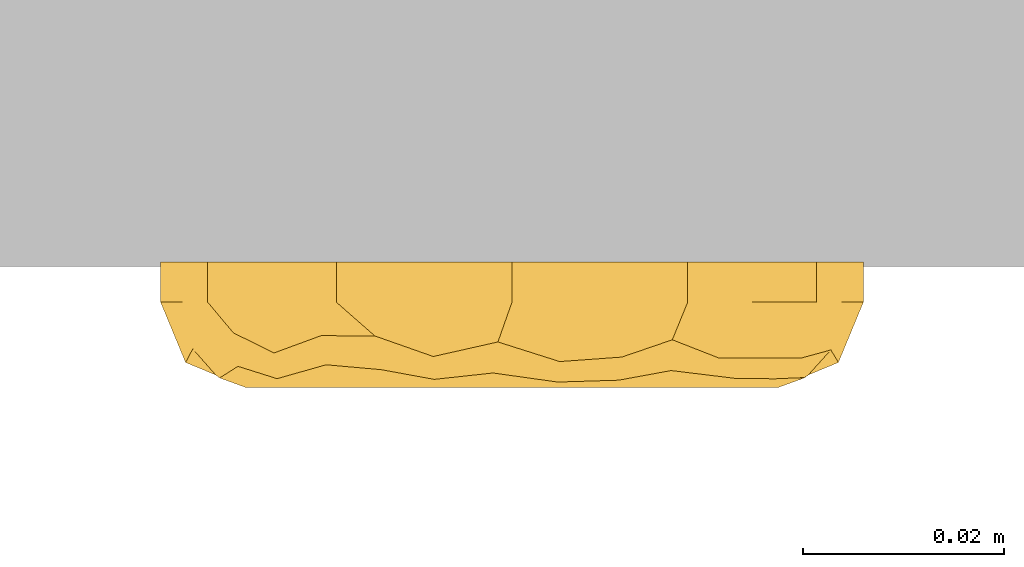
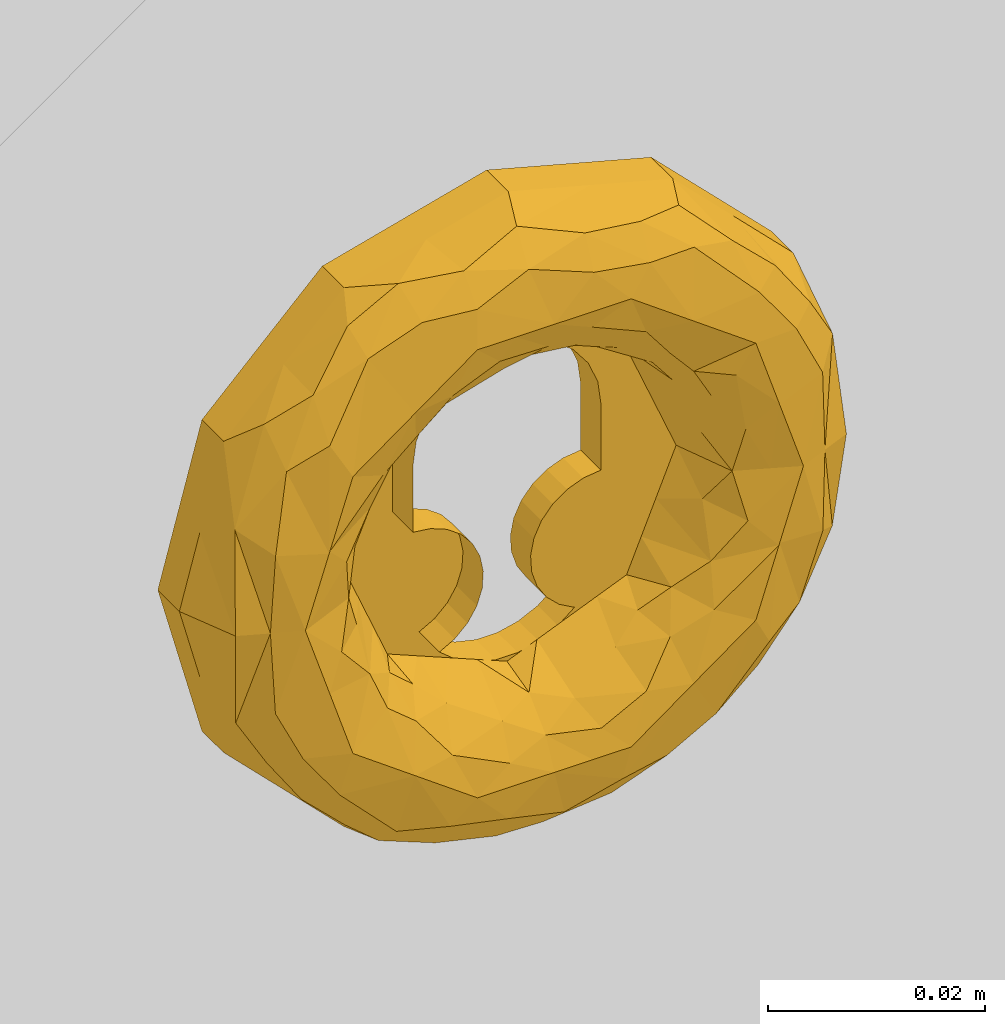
# One storey, part 2 of 2: 1 door.
"""IFC2X3 building model written with IfcOpenShell, lengths in feet."""

from ifc_helpers import new_model, entity, si_unit, converted_unit, derived_unit, direction, frame, origin, place, context, subcontext, project, spatial, face_set, surface_model, source, transform, mapped, type_object, type_shapes, element, save


model = new_model("IFC2X3")

# Units and contexts
model_context = context("Model", 3, precision=0.0001, world=origin(), true_north=direction((6.12303176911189e-17, 1.0)))
body_context = subcontext(model_context, "Body", "Model", "MODEL_VIEW")
ifc_project = project(units=[converted_unit("LENGTHUNIT", "FOOT", entity("IfcRatioMeasure", 0.3048), si_unit("LENGTHUNIT", "METRE"), dimensions=[1, 0, 0, 0, 0, 0, 0]), converted_unit("AREAUNIT", "SQUARE FOOT", entity("IfcRatioMeasure", 0.09290304), si_unit("AREAUNIT", "SQUARE_METRE"), dimensions=[2, 0, 0, 0, 0, 0, 0]), converted_unit("VOLUMEUNIT", "CUBIC FOOT", entity("IfcRatioMeasure", 0.028316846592), si_unit("VOLUMEUNIT", "CUBIC_METRE"), dimensions=[3, 0, 0, 0, 0, 0, 0]), converted_unit("PLANEANGLEUNIT", "DEGREE", entity("IfcRatioMeasure", 0.0174532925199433), si_unit("PLANEANGLEUNIT", "RADIAN"), dimensions=[0, 0, 0, 0, 0, 0, 0]), si_unit("MASSUNIT", "GRAM", prefix="KILO"), derived_unit("MASSDENSITYUNIT", [(si_unit("MASSUNIT", "GRAM", prefix="KILO"), 1), (si_unit("LENGTHUNIT", "METRE"), -3)]), si_unit("TIMEUNIT", "SECOND"), si_unit("FREQUENCYUNIT", "HERTZ"), si_unit("THERMODYNAMICTEMPERATUREUNIT", "DEGREE_CELSIUS"), derived_unit("THERMALTRANSMITTANCEUNIT", [(si_unit("MASSUNIT", "GRAM", prefix="KILO"), 1), (si_unit("THERMODYNAMICTEMPERATUREUNIT", "KELVIN"), -1), (si_unit("TIMEUNIT", "SECOND"), -3)]), derived_unit("VOLUMETRICFLOWRATEUNIT", [(si_unit("LENGTHUNIT", "METRE"), 3), (si_unit("TIMEUNIT", "SECOND"), -1)]), si_unit("ELECTRICCURRENTUNIT", "AMPERE"), si_unit("ELECTRICVOLTAGEUNIT", "VOLT"), si_unit("POWERUNIT", "WATT"), si_unit("FORCEUNIT", "NEWTON"), si_unit("ILLUMINANCEUNIT", "LUX"), si_unit("LUMINOUSFLUXUNIT", "LUMEN"), si_unit("LUMINOUSINTENSITYUNIT", "CANDELA"), derived_unit("USERDEFINED", [(si_unit("MASSUNIT", "GRAM", prefix="KILO"), -1), (si_unit("LENGTHUNIT", "METRE"), -2), (si_unit("TIMEUNIT", "SECOND"), 3), (si_unit("LUMINOUSFLUXUNIT", "LUMEN"), 1)]), derived_unit("LINEARVELOCITYUNIT", [(si_unit("LENGTHUNIT", "METRE"), 1), (si_unit("TIMEUNIT", "SECOND"), -1)]), si_unit("PRESSUREUNIT", "PASCAL"), derived_unit("USERDEFINED", [(si_unit("LENGTHUNIT", "METRE"), -2), (si_unit("MASSUNIT", "GRAM", prefix="KILO"), 1), (si_unit("TIMEUNIT", "SECOND"), -2)])], contexts=[model_context])

# Site, building, storey
site_placement = place(None, origin())
site = spatial("IfcSite", under=ifc_project, at=site_placement, Name="Default", CompositionType="ELEMENT")
building_placement = place(site_placement, origin())
building = spatial("IfcBuilding", under=site, at=building_placement, CompositionType="ELEMENT")
storey_placement = place(building_placement, origin())
storey = spatial("IfcBuildingStorey", under=building, at=storey_placement, Name="Level 1", CompositionType="ELEMENT", Elevation=0.0)

# Door
door_style = type_object("IfcDoorStyle", Name="dline_Hardware_TomDixonCollection_Escutcheons_Roccoco_Half_SnapOn_3.25", ConstructionType="NOTDEFINED", OperationType="NOTDEFINED", ParameterTakesPrecedence=False, Sizeable=False)
shared_shape = source(origin(), body_context, "Body", "SurfaceModel", [
    surface_model("IfcFaceBasedSurfaceModel", [(-0.114829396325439, 0.0, -0.00161922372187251), (-0.0994451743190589, 0.0574146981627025, -0.00161922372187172), (-0.0574146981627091, 0.0994451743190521, -0.00161922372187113), (0.0, 0.114829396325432, -0.00161922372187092), (0.0574146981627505, 0.099445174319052, -0.00161922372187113), (0.0994451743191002, 0.0574146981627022, -0.00161922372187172), (0.11482939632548, 0.0, -0.00161922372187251), (0.0328083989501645, 0.0, -0.00161922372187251), (0.0267051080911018, 0.000768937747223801, -0.0016192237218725), (0.0209832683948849, 0.00302769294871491, -0.00161922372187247), (0.0160004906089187, 0.00663509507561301, -0.00161922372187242), (0.012068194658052, 0.011365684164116, -0.00161922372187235), (0.00943214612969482, 0.0169238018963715, -0.00161922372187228), (0.00825709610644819, 0.0229620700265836, -0.00161922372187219), (0.00861648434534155, 0.0291031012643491, -0.00161922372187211), (0.0104878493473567, 0.0349630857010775, -0.00161922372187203), (0.0137542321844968, 0.0401757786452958, -0.00161922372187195), (0.0182114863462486, 0.0444153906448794, -0.0016192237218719), (0.02358103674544, 0.0474169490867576, -0.00161922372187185), (0.017783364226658, 0.0521769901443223, -0.00161922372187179), (0.0110560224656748, 0.0554957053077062, -0.00161922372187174), (0.00375069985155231, 0.0571996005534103, -0.00161922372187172), (-0.00375069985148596, 0.0571996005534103, -0.00161922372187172), (-0.0110560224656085, 0.0554957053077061, -0.00161922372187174), (-0.0177833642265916, 0.0521769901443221, -0.00161922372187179), (-0.0235810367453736, 0.0474169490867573, -0.00161922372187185), (-0.0182114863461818, 0.0444153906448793, -0.0016192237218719), (-0.01375423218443, 0.0401757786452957, -0.00161922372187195), (-0.0104878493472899, 0.0349630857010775, -0.00161922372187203), (-0.00861648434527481, 0.029103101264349, -0.00161922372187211), (-0.00825709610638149, 0.0229620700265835, -0.00161922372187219), (-0.00943214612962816, 0.0169238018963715, -0.00161922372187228), (-0.0120681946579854, 0.011365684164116, -0.00161922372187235), (-0.0160004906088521, 0.00663509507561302, -0.00161922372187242), (-0.0209832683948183, 0.00302769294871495, -0.00161922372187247), (-0.0267051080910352, 0.000768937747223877, -0.0016192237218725), (-0.0328083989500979, 0.0, -0.00161922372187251), (0.0994451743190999, -0.0574146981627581, -0.0016192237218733), (0.0574146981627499, -0.0994451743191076, -0.00161922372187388), (0.0, -0.114829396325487, -0.0016192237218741), (-0.0574146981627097, -0.099445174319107, -0.00161922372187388), (-0.0994451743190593, -0.0574146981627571, -0.0016192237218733), (-0.0328083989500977, -0.0246062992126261, -0.00161922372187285), (-0.0316904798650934, -0.0330977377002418, -0.00161922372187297), (-0.0284129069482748, -0.0410104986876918, -0.00161922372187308), (-0.0231990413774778, -0.0478053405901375, -0.00161922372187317), (-0.0164041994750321, -0.0530192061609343, -0.00161922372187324), (-0.00849143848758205, -0.0562967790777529, -0.00161922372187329), (0.0, -0.0574146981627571, -0.0016192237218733), (0.00849143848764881, -0.0562967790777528, -0.00161922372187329), (0.0164041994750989, -0.0530192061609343, -0.00161922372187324), (0.0231990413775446, -0.0478053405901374, -0.00161922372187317), (0.0284129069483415, -0.0410104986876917, -0.00161922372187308), (0.0316904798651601, -0.0330977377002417, -0.00161922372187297), (0.0328083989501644, -0.0246062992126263, -0.00161922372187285), (0.103991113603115, 0.0404490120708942, 0.0114829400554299), (0.107137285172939, 0.0287073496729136, -0.0016192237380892), (0.109410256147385, 0.0202245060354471, 0.0114829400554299), (-0.107137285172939, 0.0287073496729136, 0.0114829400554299), (-0.0994451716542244, 0.0574146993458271, 0.0114829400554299), (-0.107137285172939, 0.0287073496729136, -0.0016192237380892), (0.0784299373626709, 0.0784299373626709, 0.0114829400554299), (0.0994451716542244, 0.0574146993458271, 0.0114829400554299), (0.0784299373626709, 0.0784299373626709, -0.0016192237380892), (0.114829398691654, 0.0, 0.0114829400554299), (0.0574146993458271, 0.0994451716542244, 0.0114829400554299), (0.0287073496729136, 0.107137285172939, -0.0016192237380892), (0.0, 0.114829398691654, 0.0114829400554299), (0.0287073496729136, 0.107137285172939, 0.0114829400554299), (-0.0287073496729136, 0.107137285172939, 0.0114829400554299), (-0.0287073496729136, 0.107137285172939, -0.0016192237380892), (-0.0784299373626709, 0.0784299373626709, -0.0016192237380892), (-0.0784299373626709, 0.0784299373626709, 0.0114829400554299), (-0.0574146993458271, 0.0994451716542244, 0.0114829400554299), (-0.114829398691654, 0.0, 0.0114829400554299), (-0.103991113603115, -0.0404490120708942, 0.0114829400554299), (-0.107137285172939, -0.0287073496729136, -0.0016192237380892), (-0.109410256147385, -0.0202245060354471, 0.0114829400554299), (0.107137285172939, -0.0287073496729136, 0.0114829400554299), (0.0994451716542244, -0.0574146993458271, 0.0114829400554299), (0.107137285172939, -0.0287073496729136, -0.0016192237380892), (-0.0784299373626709, -0.0784299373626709, 0.0114829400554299), (-0.0994451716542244, -0.0574146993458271, 0.0114829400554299), (-0.0784299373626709, -0.0784299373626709, -0.0016192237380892), (-0.0574146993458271, -0.0994451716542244, 0.0114829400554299), (-0.0287073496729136, -0.107137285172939, -0.0016192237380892), (0.0, -0.114829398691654, 0.0114829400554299), (-0.0287073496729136, -0.107137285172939, 0.0114829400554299), (0.0287073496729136, -0.107137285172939, 0.0114829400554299), (0.0287073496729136, -0.107137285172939, -0.0016192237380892), (0.0784299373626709, -0.0784299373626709, -0.0016192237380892), (0.0784299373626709, -0.0784299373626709, 0.0114829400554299), (0.0574146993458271, -0.0994451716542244, 0.0114829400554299), (0.104185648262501, 0.0354321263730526, 0.0271007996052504), (0.10769384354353, 0.0266302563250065, 0.0114829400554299), (-0.00460470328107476, 0.111512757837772, 0.0244946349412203), (-0.0257417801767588, 0.105345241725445, 0.029240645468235), (-0.00619756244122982, 0.102307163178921, 0.0346305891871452), (0.0358880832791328, 0.102162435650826, 0.0294351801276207), (0.0155927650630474, 0.105819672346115, 0.0308965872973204), (0.095525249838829, 0.0295866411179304, 0.0361229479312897), (0.0948657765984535, 0.0518237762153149, 0.0296521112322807), (0.086100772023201, 0.0492820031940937, 0.0365281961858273), (-0.0607702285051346, 0.086708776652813, 0.0319500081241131), (-0.0427446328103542, 0.0948088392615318, 0.0335454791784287), (-0.0447977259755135, 0.103246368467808, 0.0225341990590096), (0.106661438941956, 0.0, 0.0312021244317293), (0.0676873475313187, 0.0841498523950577, 0.0297723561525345), (0.0520024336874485, 0.0896197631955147, 0.0338375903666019), (0.0733057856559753, 0.0671199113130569, 0.0364366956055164), (0.0703377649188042, 0.051103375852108, 0.0393700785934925), (0.0523817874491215, 0.0989614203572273, 0.0237841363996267), (0.0348720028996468, 0.0918425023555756, 0.036979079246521), (-0.0623906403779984, 0.093721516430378, 0.0224341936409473), (0.0968018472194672, 0.0, 0.0352861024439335), (0.0486022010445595, 0.0668951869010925, 0.0393700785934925), (-0.104311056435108, 0.0357333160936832, 0.026776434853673), (-0.0895434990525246, 0.0554412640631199, 0.0324601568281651), (-0.0910296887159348, 0.0668764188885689, 0.021533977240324), (-0.0253979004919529, 0.0954931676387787, 0.0367174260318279), (-0.0486022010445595, 0.0668951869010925, 0.0393700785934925), (-0.0777445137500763, 0.0769081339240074, 0.0280735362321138), (-0.0767557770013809, 0.0629682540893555, 0.0364925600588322), (-0.0955414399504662, 0.0286489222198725, 0.0362579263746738), (-0.0968018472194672, 0.0, 0.0352861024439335), (-0.10769384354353, 0.0266302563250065, 0.0114829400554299), (-0.106661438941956, 0.0, 0.0312021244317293), (0.0149465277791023, 0.0955802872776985, 0.0375915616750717), (-0.0786400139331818, 0.025551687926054, 0.0393700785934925), (-0.0869422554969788, 0.0, 0.0393700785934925), (0.0869422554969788, 0.0, 0.0393700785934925), (0.0786400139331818, 0.025551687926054, 0.0393700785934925), (0.0827525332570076, 0.069546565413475, 0.0296548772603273), (0.0268666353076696, 0.0826869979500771, 0.0393700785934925), (0.0, 0.0826869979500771, 0.0393700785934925), (-0.0703377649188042, 0.051103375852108, 0.0393700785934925), (-0.0268666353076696, 0.0826869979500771, 0.0393700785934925), (-0.104185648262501, -0.0354321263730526, 0.0271007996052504), (-0.10769384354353, -0.0266302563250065, 0.0114829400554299), (0.0895434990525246, -0.0554412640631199, 0.0324601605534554), (0.0786400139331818, -0.025551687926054, 0.0393700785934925), (0.0767557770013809, -0.0629682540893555, 0.0364925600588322), (0.10769384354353, -0.0266302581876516, 0.0114829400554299), (0.104311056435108, -0.0357333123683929, 0.026776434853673), (-0.095525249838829, -0.0295866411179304, 0.0361229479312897), (-0.0948657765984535, -0.0518237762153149, 0.0296521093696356), (-0.086100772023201, -0.0492820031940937, 0.0365281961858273), (-0.0486022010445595, -0.0668951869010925, 0.0393700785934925), (-0.0703377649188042, -0.051103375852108, 0.0393700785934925), (-0.0733057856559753, -0.0671199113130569, 0.0364366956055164), (-0.0358880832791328, -0.102162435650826, 0.0294351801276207), (-0.0155927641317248, -0.105819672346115, 0.0308965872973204), (-0.0676873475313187, -0.0841498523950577, 0.0297723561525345), (-0.0520024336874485, -0.0896197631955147, 0.0338375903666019), (-0.0348720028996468, -0.0918425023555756, 0.036979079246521), (0.00460470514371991, -0.111512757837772, 0.0244946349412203), (0.0910296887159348, -0.0668764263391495, 0.021533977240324), (0.0607702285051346, -0.0867087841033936, 0.0319500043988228), (0.0447977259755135, -0.103246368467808, 0.0225341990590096), (0.0623906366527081, -0.093721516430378, 0.0224341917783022), (0.0427446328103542, -0.0948088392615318, 0.0335454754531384), (0.025397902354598, -0.0954931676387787, 0.0367174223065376), (0.0257417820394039, -0.105345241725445, 0.0292406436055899), (0.0777445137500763, -0.0769081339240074, 0.0280735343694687), (0.0955414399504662, -0.0286489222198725, 0.0362579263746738), (0.00619756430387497, -0.102307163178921, 0.0346305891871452), (-0.0149465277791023, -0.0955802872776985, 0.0375915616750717), (0.0486022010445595, -0.0668951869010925, 0.0393700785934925), (-0.0523817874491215, -0.0989614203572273, 0.0237841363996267), (-0.0786400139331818, -0.025551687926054, 0.0393700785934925), (-0.0827525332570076, -0.069546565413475, 0.0296548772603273), (-0.0268666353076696, -0.0826869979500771, 0.0393700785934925), (0.0, -0.0826869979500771, 0.0393700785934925), (0.0703377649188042, -0.051103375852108, 0.0393700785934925), (0.0268666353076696, -0.0826869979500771, 0.0393700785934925), (0.0595088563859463, 0.030643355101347, 0.0309099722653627), (0.0784134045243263, 0.0262491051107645, 0.0393700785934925), (0.0484802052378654, 0.0383875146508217, 0.0236265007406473), (0.044356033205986, 0.052351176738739, 0.0325026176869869), (0.0548929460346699, 0.0432777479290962, 0.0335578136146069), (-0.0606496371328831, 0.0123952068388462, 0.0237607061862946), (-0.0519581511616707, 0.0171627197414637, 0.0106627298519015), (-0.0590671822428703, 0.0, 0.0106627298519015), (0.0724360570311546, 0.0148040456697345, 0.0361499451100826), (0.06114686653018, 0.0148187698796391, 0.0256418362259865), (0.0669351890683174, 0.0, 0.0309099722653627), (0.0590671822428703, 0.0, 0.0106627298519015), (-0.0104417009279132, 0.0547420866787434, 0.0106627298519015), (-0.0208834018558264, 0.0504169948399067, 0.0106627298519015), (-0.0123898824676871, 0.0651603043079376, 0.0302642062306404), (0.0519581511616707, 0.0171627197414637, 0.0106627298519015), (0.0337963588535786, 0.0663290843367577, 0.0364119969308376), (-0.0578487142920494, 0.0450543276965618, 0.0358186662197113), (-0.0784134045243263, 0.0262491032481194, 0.0393700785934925), (0.0468624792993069, 0.0294647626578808, 0.0106627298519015), (-0.0595088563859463, 0.030643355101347, 0.0309099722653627), (-0.0700549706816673, 0.0169776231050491, 0.035081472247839), (-0.0337963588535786, 0.0663290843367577, 0.0364119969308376), (-0.029567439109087, 0.055287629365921, 0.0252624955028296), (-0.0669351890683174, 0.0, 0.0309099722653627), (-0.044356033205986, 0.052351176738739, 0.0325026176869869), (-0.0487650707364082, 0.039685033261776, 0.025566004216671), (0.0417668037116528, 0.0417668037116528, 0.0106627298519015), (0.0394373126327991, 0.0467448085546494, 0.0221082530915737), (0.0143742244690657, 0.0754772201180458, 0.0374735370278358), (0.0295674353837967, 0.0552876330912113, 0.0252624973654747), (0.0208834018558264, 0.0504169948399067, 0.0106627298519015), (0.0129081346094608, 0.0648935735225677, 0.030083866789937), (-0.0313251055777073, 0.0460918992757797, 0.0106627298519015), (-0.0390795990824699, 0.0469961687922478, 0.0220180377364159), (0.000194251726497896, 0.0621994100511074, 0.0243475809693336), (0.000380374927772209, 0.0715737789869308, 0.0347538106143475), (-0.017739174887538, 0.0738889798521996, 0.0371287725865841), (-0.0134333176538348, 0.0826869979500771, 0.0393700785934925), (0.0104417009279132, 0.0547420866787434, 0.0106627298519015), (0.0313251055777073, 0.0460918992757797, 0.0106627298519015), (-0.0417668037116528, 0.0417668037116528, 0.0106627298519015), (-0.0468624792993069, 0.0294647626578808, 0.0106627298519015), (0.0, 0.0590671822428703, 0.0106627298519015), (-0.0784134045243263, -0.0262491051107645, 0.0393700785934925), (-0.0695305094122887, -0.0168505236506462, 0.0347329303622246), (-0.0647844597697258, -0.0398912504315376, 0.0371681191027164), (-0.0295674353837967, -0.0552876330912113, 0.0252624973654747), (-0.0435471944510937, -0.0435946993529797, 0.0231622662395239), (-0.0313251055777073, -0.0460918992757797, 0.0106627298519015), (-0.0208834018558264, -0.0504169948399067, 0.0106627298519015), (-0.0129081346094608, -0.0648935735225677, 0.0300838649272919), (-0.0443560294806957, -0.0523511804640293, 0.0325026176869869), (-0.0530390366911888, -0.042167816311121, 0.0317237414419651), (-0.0743755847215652, -0.0386762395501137, 0.0393700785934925), (-0.0417668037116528, -0.0417668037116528, 0.0106627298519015), (-0.0510150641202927, -0.0340855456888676, 0.0225713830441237), (0.0606496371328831, -0.0123952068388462, 0.0237607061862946), (0.0519581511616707, -0.0171627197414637, 0.0106627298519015), (-0.0337963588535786, -0.0663290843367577, 0.0364119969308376), (0.044356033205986, -0.052351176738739, 0.0325026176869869), (0.0337963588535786, -0.0663290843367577, 0.0364119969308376), (0.0578487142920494, -0.0450543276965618, 0.0358186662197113), (0.0784134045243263, -0.0262491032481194, 0.0393700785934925), (0.0595088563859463, -0.030643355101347, 0.0309099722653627), (0.0700549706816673, -0.0169776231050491, 0.035081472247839), (-0.060554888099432, -0.0119150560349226, 0.0233710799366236), (0.0123898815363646, -0.0651603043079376, 0.0302642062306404), (0.0295674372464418, -0.055287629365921, 0.0252624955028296), (-0.0776933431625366, 0.0, 0.0354591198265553), (0.0487650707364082, -0.039685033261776, 0.0255660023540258), (-0.0143742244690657, -0.0754772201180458, 0.0374735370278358), (0.0104417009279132, -0.0547420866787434, 0.0106627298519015), (0.0208834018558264, -0.0504169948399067, 0.0106627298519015), (0.0313251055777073, -0.0460918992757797, 0.0106627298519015), (0.0390795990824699, -0.0469961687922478, 0.0220180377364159), (-0.000194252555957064, -0.0621994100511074, 0.0243475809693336), (-0.000380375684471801, -0.0715737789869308, 0.0347538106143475), (0.017739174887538, -0.0738889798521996, 0.0371287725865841), (0.0134333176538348, -0.0826869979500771, 0.0393700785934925), (-0.0104417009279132, -0.0547420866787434, 0.0106627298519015), (-0.0519581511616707, -0.0171627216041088, 0.0106627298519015), (-0.059508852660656, -0.0306433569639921, 0.0309099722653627), (-0.0468624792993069, -0.0294647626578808, 0.0106627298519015), (0.0417668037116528, -0.0417668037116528, 0.0106627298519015), (0.0468624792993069, -0.0294647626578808, 0.0106627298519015), (0.0, -0.0590671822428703, 0.0106627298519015), (0.0328083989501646, 0.0, 0.0106627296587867), (0.0267051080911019, 0.000768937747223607, 0.0106627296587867), (0.020983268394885, 0.00302769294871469, 0.0106627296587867), (0.0160004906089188, 0.00663509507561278, 0.0106627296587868), (0.0120681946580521, 0.0113656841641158, 0.0106627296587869), (0.00943214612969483, 0.0169238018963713, 0.0106627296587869), (0.0082570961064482, 0.0229620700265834, 0.010662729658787), (0.00861648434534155, 0.0291031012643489, 0.0106627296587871), (0.0104878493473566, 0.0349630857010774, 0.0106627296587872), (0.0137542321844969, 0.0401757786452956, 0.0106627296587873), (0.0182114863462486, 0.0444153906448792, 0.0106627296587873), (0.0235810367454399, 0.0474169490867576, 0.0106627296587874), (0.0177833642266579, 0.0521769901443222, 0.0106627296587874), (0.0110560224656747, 0.0554957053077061, 0.0106627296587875), (0.00375069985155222, 0.0571996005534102, 0.0106627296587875), (-0.00375069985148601, 0.0571996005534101, 0.0106627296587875), (-0.0110560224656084, 0.0554957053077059, 0.0106627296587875), (-0.0177833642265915, 0.052176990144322, 0.0106627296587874), (-0.0235810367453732, 0.0474169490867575, 0.0106627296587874), (-0.0182114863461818, 0.0444153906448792, 0.0106627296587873), (-0.0137542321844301, 0.0401757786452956, 0.0106627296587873), (-0.0104878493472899, 0.0349630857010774, 0.0106627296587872), (-0.00861648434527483, 0.0291031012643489, 0.0106627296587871), (-0.00825709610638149, 0.0229620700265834, 0.010662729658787), (-0.00943214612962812, 0.0169238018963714, 0.0106627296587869), (-0.0120681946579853, 0.011365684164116, 0.0106627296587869), (-0.016000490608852, 0.00663509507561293, 0.0106627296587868), (-0.0209832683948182, 0.00302769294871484, 0.0106627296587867), (-0.0267051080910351, 0.000768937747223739, 0.0106627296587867), (-0.0328083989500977, 0.0, 0.0106627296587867), (-0.0328083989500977, -0.0246062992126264, 0.0106627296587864), (-0.0316904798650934, -0.0330977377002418, 0.0106627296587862), (-0.0284129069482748, -0.0410104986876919, 0.0106627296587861), (-0.0231990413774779, -0.0478053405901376, 0.010662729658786), (-0.0164041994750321, -0.0530192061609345, 0.010662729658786), (-0.00849143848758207, -0.056296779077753, 0.0106627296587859), (0.0, -0.0574146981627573, 0.0106627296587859), (0.00849143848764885, -0.056296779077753, 0.0106627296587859), (0.0164041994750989, -0.0530192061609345, 0.010662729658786), (0.0231990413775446, -0.0478053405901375, 0.010662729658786), (0.0284129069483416, -0.0410104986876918, 0.0106627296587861), (0.0316904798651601, -0.0330977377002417, 0.0106627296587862), (0.0328083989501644, -0.0246062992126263, 0.0106627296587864)], [face_set([[[0, 1, 2, 3, 4, 5, 6, 7, 8, 9, 10, 11, 12, 13, 14, 15, 16, 17, 18, 19, 20, 21, 22, 23, 24, 25, 26, 27, 28, 29, 30, 31, 32, 33, 34, 35, 36]], [[6, 37, 38, 39, 40, 41, 0, 36, 42, 43, 44, 45, 46, 47, 48, 49, 50, 51, 52, 53, 54, 7]], [[5, 55, 56]], [[56, 55, 57]], [[58, 59, 1, 60]], [[61, 62, 5, 63]], [[6, 56, 57]], [[57, 64, 6]], [[65, 61, 63, 4]], [[66, 3, 67, 68]], [[5, 62, 55]], [[4, 66, 68, 65]], [[69, 67, 3, 70]], [[71, 1, 59, 72]], [[2, 71, 72, 73]], [[60, 0, 74, 58]], [[70, 2, 73, 69]], [[41, 75, 76]], [[76, 75, 77]], [[78, 79, 37, 80]], [[81, 82, 41, 83]], [[0, 76, 77]], [[77, 74, 0]], [[84, 81, 83, 40]], [[85, 39, 86, 87]], [[41, 82, 75]], [[40, 85, 87, 84]], [[88, 86, 39, 89]], [[90, 37, 79, 91]], [[38, 90, 91, 92]], [[80, 6, 64, 78]], [[89, 38, 92, 88]], [[62, 93, 94]], [[95, 96, 97]], [[98, 68, 99]], [[100, 101, 102]], [[103, 104, 105]], [[93, 106, 94]], [[107, 108, 109]], [[93, 101, 100]], [[102, 109, 110]], [[111, 108, 107]], [[108, 98, 112]], [[95, 69, 96]], [[95, 99, 68]], [[106, 64, 94]], [[105, 113, 103]], [[100, 114, 93]], [[115, 110, 109]], [[116, 117, 118]], [[101, 62, 61]], [[104, 119, 96]], [[119, 104, 120]], [[121, 122, 103]], [[123, 116, 124]], [[65, 107, 61]], [[125, 126, 116]], [[99, 127, 112]], [[117, 128, 122]], [[59, 118, 72]], [[116, 59, 125]], [[125, 74, 126]], [[124, 129, 123]], [[114, 100, 130]], [[114, 106, 93]], [[62, 101, 93]], [[102, 110, 131]], [[131, 130, 100]], [[102, 101, 132]], [[102, 132, 109]], [[100, 102, 131]], [[107, 109, 132]], [[115, 109, 108]], [[107, 132, 61]], [[111, 107, 65]], [[67, 95, 68]], [[98, 108, 111]], [[111, 65, 68]], [[68, 98, 111]], [[112, 115, 108]], [[127, 99, 97]], [[99, 112, 98]], [[115, 112, 133]], [[119, 134, 97]], [[133, 112, 127]], [[134, 133, 127]], [[119, 97, 96]], [[134, 127, 97]], [[99, 95, 97]], [[73, 105, 69]], [[103, 135, 120]], [[134, 119, 136]], [[104, 96, 105]], [[136, 119, 120]], [[120, 104, 103]], [[95, 67, 69]], [[69, 105, 96]], [[105, 73, 113]], [[118, 117, 121]], [[121, 103, 113]], [[113, 73, 72]], [[72, 121, 113]], [[122, 121, 117]], [[72, 118, 121]], [[116, 118, 59]], [[101, 61, 132]], [[103, 122, 135]], [[117, 123, 128]], [[128, 135, 122]], [[116, 126, 124]], [[128, 123, 129]], [[116, 123, 117]], [[82, 137, 138]], [[139, 140, 141]], [[142, 106, 143]], [[144, 145, 146]], [[147, 148, 149]], [[137, 126, 138]], [[150, 87, 151]], [[137, 145, 144]], [[146, 149, 148]], [[152, 153, 149]], [[153, 150, 154]], [[145, 82, 81]], [[155, 151, 87]], [[144, 124, 137]], [[143, 139, 156]], [[126, 74, 138]], [[79, 156, 91]], [[157, 158, 159]], [[84, 152, 81]], [[160, 161, 162]], [[155, 88, 162]], [[163, 141, 157]], [[164, 143, 114]], [[155, 162, 165]], [[157, 160, 158]], [[151, 166, 154]], [[161, 160, 167]], [[168, 153, 152]], [[143, 79, 142]], [[142, 64, 106]], [[114, 130, 164]], [[124, 144, 129]], [[124, 126, 137]], [[82, 145, 137]], [[146, 148, 169]], [[169, 129, 144]], [[146, 145, 170]], [[146, 170, 149]], [[144, 146, 169]], [[152, 149, 170]], [[147, 149, 153]], [[152, 170, 81]], [[168, 152, 84]], [[86, 155, 87]], [[150, 153, 168]], [[168, 84, 87]], [[87, 150, 168]], [[154, 147, 153]], [[166, 151, 165]], [[151, 154, 150]], [[147, 154, 171]], [[161, 172, 165]], [[171, 154, 166]], [[172, 171, 166]], [[161, 165, 162]], [[172, 166, 165]], [[151, 155, 165]], [[92, 158, 88]], [[157, 173, 167]], [[172, 161, 174]], [[160, 162, 158]], [[174, 161, 167]], [[167, 160, 157]], [[155, 86, 88]], [[88, 158, 162]], [[158, 92, 159]], [[156, 139, 163]], [[163, 157, 159]], [[159, 92, 91]], [[91, 163, 159]], [[141, 163, 139]], [[91, 156, 163]], [[143, 156, 79]], [[145, 81, 170]], [[157, 141, 173]], [[139, 164, 140]], [[140, 173, 141]], [[143, 106, 114]], [[140, 164, 130]], [[143, 164, 139]], [[175, 110, 176]], [[177, 178, 179]], [[175, 177, 179]], [[180, 181, 182]], [[175, 183, 184]], [[185, 186, 184]], [[187, 188, 189]], [[190, 175, 184]], [[191, 115, 178]], [[178, 115, 179]], [[192, 193, 135]], [[175, 194, 177]], [[195, 181, 180]], [[196, 195, 180]], [[193, 192, 195]], [[197, 189, 198]], [[196, 199, 129]], [[200, 201, 192]], [[193, 195, 196]], [[183, 176, 130]], [[202, 203, 177]], [[204, 191, 133]], [[200, 120, 197]], [[205, 206, 207]], [[198, 208, 209]], [[178, 205, 191]], [[210, 189, 211]], [[120, 136, 197]], [[210, 187, 189]], [[211, 134, 204]], [[211, 212, 213]], [[133, 115, 191]], [[207, 214, 210]], [[191, 205, 207]], [[203, 215, 205]], [[200, 197, 198]], [[120, 192, 135]], [[212, 189, 197]], [[201, 200, 209]], [[202, 177, 194]], [[175, 190, 194]], [[178, 177, 203]], [[179, 110, 175]], [[110, 179, 115]], [[203, 205, 178]], [[190, 184, 186]], [[206, 205, 215]], [[203, 202, 215]], [[185, 184, 183]], [[185, 183, 130]], [[176, 183, 175]], [[193, 196, 129]], [[199, 196, 180]], [[199, 180, 182]], [[216, 217, 201]], [[217, 181, 195]], [[195, 192, 201]], [[200, 192, 120]], [[195, 201, 217]], [[216, 201, 209]], [[198, 188, 208]], [[209, 200, 198]], [[208, 216, 209]], [[218, 210, 214]], [[207, 206, 214]], [[207, 210, 211]], [[207, 211, 204]], [[213, 134, 211]], [[136, 213, 212]], [[136, 212, 197]], [[189, 212, 211]], [[207, 204, 191]], [[133, 204, 134]], [[198, 189, 188]], [[187, 210, 218]], [[219, 220, 221]], [[222, 223, 224]], [[222, 225, 226]], [[223, 227, 228]], [[148, 229, 221]], [[230, 223, 231]], [[232, 233, 186]], [[229, 219, 221]], [[234, 147, 227]], [[235, 167, 236]], [[237, 238, 173]], [[147, 148, 227]], [[239, 233, 232]], [[240, 239, 232]], [[220, 199, 241]], [[236, 242, 243]], [[219, 129, 244]], [[235, 245, 237]], [[238, 239, 240]], [[241, 199, 182]], [[240, 185, 130]], [[246, 234, 171]], [[247, 248, 242]], [[238, 237, 239]], [[243, 249, 250]], [[227, 222, 234]], [[251, 242, 252]], [[167, 174, 236]], [[251, 247, 242]], [[252, 172, 246]], [[252, 253, 254]], [[171, 147, 234]], [[226, 255, 251]], [[234, 222, 226]], [[223, 230, 224]], [[235, 236, 243]], [[167, 237, 173]], [[253, 242, 236]], [[245, 235, 250]], [[224, 225, 222]], [[244, 220, 219]], [[220, 244, 199]], [[256, 257, 241]], [[220, 241, 257]], [[256, 241, 182]], [[257, 228, 221]], [[227, 148, 228]], [[257, 221, 220]], [[221, 228, 148]], [[257, 231, 228]], [[227, 223, 222]], [[256, 231, 257]], [[258, 230, 231]], [[228, 231, 223]], [[258, 231, 256]], [[238, 240, 130]], [[185, 240, 232]], [[185, 232, 186]], [[259, 260, 245]], [[260, 233, 239]], [[239, 237, 245]], [[235, 237, 167]], [[239, 245, 260]], [[259, 245, 250]], [[243, 248, 249]], [[250, 235, 243]], [[249, 259, 250]], [[261, 251, 255]], [[226, 225, 255]], [[226, 251, 252]], [[226, 252, 246]], [[254, 172, 252]], [[174, 254, 253]], [[174, 253, 236]], [[242, 253, 252]], [[226, 246, 234]], [[171, 246, 172]], [[243, 242, 248]], [[247, 251, 261]], [[186, 262, 263, 264, 265, 266, 267, 268, 269, 270, 271, 272, 273, 274, 275, 276, 277, 278, 279, 280, 281, 282, 283, 284, 285, 286, 287, 288, 289, 290, 291, 182, 216, 218, 202]], [[182, 291, 292, 293, 294, 295, 296, 297, 298, 299, 300, 301, 302, 303, 304, 262, 186, 259, 261, 230]], [[262, 304, 54, 7]], [[54, 304, 303, 53]], [[53, 303, 302, 52]], [[51, 301, 300, 50]], [[52, 302, 301, 51]], [[50, 300, 299, 49]], [[298, 48, 49, 299]], [[48, 298, 297, 47]], [[47, 297, 296, 46]], [[45, 295, 294, 44]], [[46, 296, 295, 45]], [[44, 294, 293, 43]], [[292, 42, 43, 293]], [[36, 42, 292, 291]], [[25, 280, 279, 24]], [[24, 279, 278, 23]], [[23, 278, 277, 22]], [[276, 21, 22, 277]], [[21, 276, 275, 20]], [[20, 275, 274, 19]], [[19, 274, 273, 18]], [[290, 35, 36, 291]], [[289, 34, 35, 290]], [[287, 32, 33, 288]], [[288, 33, 34, 289]], [[286, 31, 32, 287]], [[285, 30, 31, 286]], [[284, 29, 30, 285]], [[284, 29, 28, 283]], [[282, 27, 26, 281]], [[283, 28, 27, 282]], [[281, 26, 25, 280]], [[273, 18, 17, 272]], [[272, 17, 16, 271]], [[270, 15, 14, 269]], [[271, 16, 15, 270]], [[268, 13, 14, 269]], [[267, 12, 13, 268]], [[266, 11, 12, 267]], [[265, 10, 11, 266]], [[263, 8, 9, 264]], [[264, 9, 10, 265]], [[262, 7, 8, 263]]])]),
])
type_shapes(door_style, [shared_shape])
door_placement = place(storey_placement, frame((-3.67803957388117, 6.19537031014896, 3.59147178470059), z_axis=(0.0, -1.0, 0.0), x_axis=(-1.0, 0.0, 0.0)))
element("IfcDoor", 1, at=door_placement, inside=storey, type_object=door_style, Name="12.9004.02.060:dline_Hardware_TomDixonCollection_Escutcheons_Roccoco_Half_SnapOn_3.25", ObjectType="12.9004.02.060:dline_Hardware_TomDixonCollection_Escutcheons_Roccoco_Half_SnapOn_3.25", OverallHeight=0.402701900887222, OverallWidth=0.442913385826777, context=body_context, shape_type="MappedRepresentation", body=[
    mapped(shared_shape, transform((0.0, 0.0, 0.0), scale=1.0)),
])

save(model, "model.ifc")
